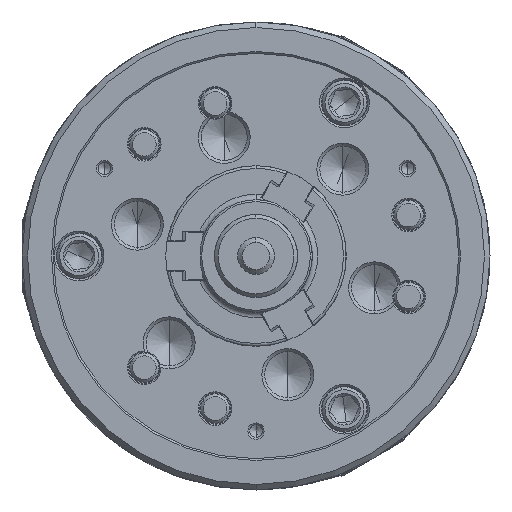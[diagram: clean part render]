
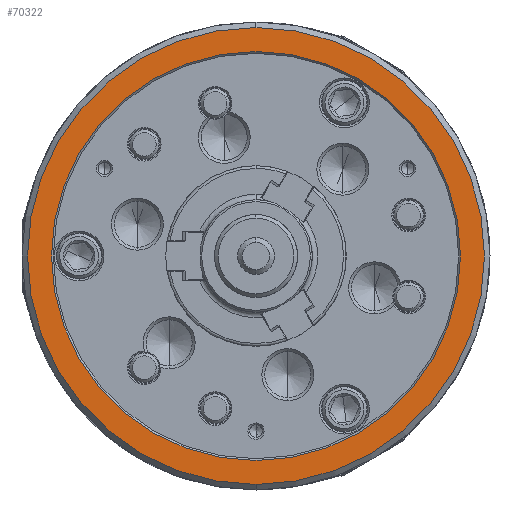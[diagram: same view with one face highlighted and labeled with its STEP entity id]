
A CAD part, left-side view. The second image highlights one B-rep face of the part: STEP entity #70322.
In plain terms, the highlighted planar face has unit normal (-1, 0, 0).
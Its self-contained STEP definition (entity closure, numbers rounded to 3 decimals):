
#776 = VERTEX_POINT ( 'NONE', #23345 ) ;
#850 = DIRECTION ( 'NONE',  ( 0., 0., -1. ) ) ;
#1517 = PLANE ( 'NONE',  #61444 ) ;
#1524 = EDGE_CURVE ( 'NONE', #34600, #79385, #32758, .T. ) ;
#1813 = CARTESIAN_POINT ( 'NONE',  ( -89., 0., 0. ) ) ;
#3611 = AXIS2_PLACEMENT_3D ( 'NONE', #89165, #90767, #8577 ) ;
#5860 = EDGE_CURVE ( 'NONE', #776, #82956, #97128, .T. ) ;
#8577 = DIRECTION ( 'NONE',  ( 0., 0., -1. ) ) ;
#13576 = DIRECTION ( 'NONE',  ( 1., 0., 0. ) ) ;
#14014 = CIRCLE ( 'NONE', #92918, 111. ) ;
#16695 = EDGE_LOOP ( 'NONE', ( #69164, #28582 ) ) ;
#18100 = CARTESIAN_POINT ( 'NONE',  ( -89., 0., 124. ) ) ;
#22200 = EDGE_CURVE ( 'NONE', #82956, #776, #14014, .T. ) ;
#23345 = CARTESIAN_POINT ( 'NONE',  ( -89., 0., 111. ) ) ;
#26214 = CARTESIAN_POINT ( 'NONE',  ( -89., -124., 0. ) ) ;
#26660 = CARTESIAN_POINT ( 'NONE',  ( -89., 0., -111. ) ) ;
#27912 = EDGE_CURVE ( 'NONE', #79385, #34600, #76843, .T. ) ;
#28582 = ORIENTED_EDGE ( 'NONE', *, *, #1524, .F. ) ;
#30194 = ORIENTED_EDGE ( 'NONE', *, *, #22200, .T. ) ;
#32758 = CIRCLE ( 'NONE', #3611, 124. ) ;
#34306 = DIRECTION ( 'NONE',  ( 1., 0., 0. ) ) ;
#34600 = VERTEX_POINT ( 'NONE', #18100 ) ;
#38191 = CARTESIAN_POINT ( 'NONE',  ( -89., 0., -124. ) ) ;
#50845 = AXIS2_PLACEMENT_3D ( 'NONE', #64224, #105626, #850 ) ;
#51104 = AXIS2_PLACEMENT_3D ( 'NONE', #1813, #99025, #100099 ) ;
#60866 = DIRECTION ( 'NONE',  ( 0., 0., -1. ) ) ;
#61444 = AXIS2_PLACEMENT_3D ( 'NONE', #26214, #34306, #98729 ) ;
#64224 = CARTESIAN_POINT ( 'NONE',  ( -89., 0., 0. ) ) ;
#65935 = FACE_BOUND ( 'NONE', #102697, .T. ) ;
#69164 = ORIENTED_EDGE ( 'NONE', *, *, #27912, .F. ) ;
#70322 = ADVANCED_FACE ( 'NONE', ( #81540, #65935 ), #1517, .F. ) ;
#76843 = CIRCLE ( 'NONE', #51104, 124. ) ;
#79092 = CARTESIAN_POINT ( 'NONE',  ( -89., 0., 0. ) ) ;
#79385 = VERTEX_POINT ( 'NONE', #38191 ) ;
#81540 = FACE_OUTER_BOUND ( 'NONE', #16695, .T. ) ;
#82956 = VERTEX_POINT ( 'NONE', #26660 ) ;
#89165 = CARTESIAN_POINT ( 'NONE',  ( -89., 0., 0. ) ) ;
#90767 = DIRECTION ( 'NONE',  ( 1., 0., 0. ) ) ;
#91832 = ORIENTED_EDGE ( 'NONE', *, *, #5860, .T. ) ;
#92918 = AXIS2_PLACEMENT_3D ( 'NONE', #79092, #13576, #60866 ) ;
#97128 = CIRCLE ( 'NONE', #50845, 111. ) ;
#98729 = DIRECTION ( 'NONE',  ( 0., 0., -1. ) ) ;
#99025 = DIRECTION ( 'NONE',  ( 1., 0., 0. ) ) ;
#100099 = DIRECTION ( 'NONE',  ( 0., 0., -1. ) ) ;
#102697 = EDGE_LOOP ( 'NONE', ( #91832, #30194 ) ) ;
#105626 = DIRECTION ( 'NONE',  ( 1., 0., 0. ) ) ;
